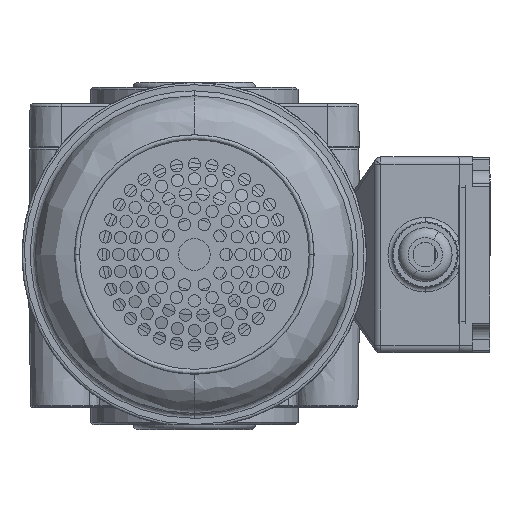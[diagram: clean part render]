
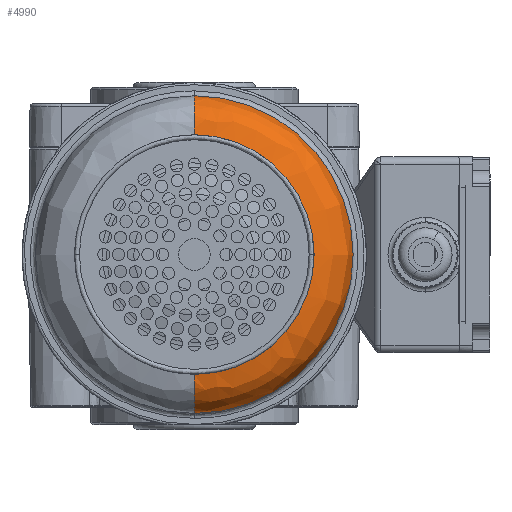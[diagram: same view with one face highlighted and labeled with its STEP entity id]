
A CAD part, top view. The second image highlights one B-rep face of the part: STEP entity #4990.
In plain terms, the highlighted free-form (B-spline) face has degree [3, 3] with [4, 4] control points.
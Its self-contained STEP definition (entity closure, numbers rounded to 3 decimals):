
#3234 = CIRCLE ( 'NONE', #11669, 49. ) ;
#3385 = CARTESIAN_POINT ( 'NONE',  ( 59.402, 280.037, 210.035 ) ) ;
#4717 = EDGE_CURVE ( 'NONE', #8215, #44333, #60486, .T. ) ;
#4990 = ADVANCED_FACE ( 'NONE', ( #25515 ), #59912, .T. ) ;
#6216 = DIRECTION ( 'NONE',  ( 0., -1., 0. ) ) ;
#7469 = CARTESIAN_POINT ( 'NONE',  ( -38.598, 264.037, 210.035 ) ) ;
#7554 = CARTESIAN_POINT ( 'NONE',  ( 78.147, 280.037, 219.407 ) ) ;
#8215 = VERTEX_POINT ( 'NONE', #22534 ) ;
#8650 = CARTESIAN_POINT ( 'NONE',  ( -38.598, 273.41, 226.035 ) ) ;
#11625 = EDGE_LOOP ( 'NONE', ( #36212, #29566, #37256, #16274, #31922, #48112 ) ) ;
#11669 = AXIS2_PLACEMENT_3D ( 'NONE', #27959, #6216, #63155 ) ;
#16241 = DIRECTION ( 'NONE',  ( 1., 0., 0. ) ) ;
#16274 = ORIENTED_EDGE ( 'NONE', *, *, #4717, .T. ) ;
#17871 = AXIS2_PLACEMENT_3D ( 'NONE', #45427, #39427, #16241 ) ;
#18180 = CARTESIAN_POINT ( 'NONE',  ( -38.598, 280.037, 161.035 ) ) ;
#19164 = CARTESIAN_POINT ( 'NONE',  ( -38.598, 280.037, 210.035 ) ) ;
#21336 = CARTESIAN_POINT ( 'NONE',  ( -38.598, 280.037, 210.035 ) ) ;
#22534 = CARTESIAN_POINT ( 'NONE',  ( -38.598, 264.037, 96.035 ) ) ;
#24524 = DIRECTION ( 'NONE',  ( 0., 0., -1. ) ) ;
#24779 = CARTESIAN_POINT ( 'NONE',  ( 91.402, 273.41, 96.035 ) ) ;
#25515 = FACE_OUTER_BOUND ( 'NONE', #11625, .T. ) ;
#27959 = CARTESIAN_POINT ( 'NONE',  ( -38.598, 280.037, 161.035 ) ) ;
#29566 = ORIENTED_EDGE ( 'NONE', *, *, #38712, .F. ) ;
#30401 = CARTESIAN_POINT ( 'NONE',  ( -38.598, 280.037, 112.035 ) ) ;
#30767 = CARTESIAN_POINT ( 'NONE',  ( -38.598, 280.037, 219.407 ) ) ;
#31040 = VERTEX_POINT ( 'NONE', #21336 ) ;
#31922 = ORIENTED_EDGE ( 'NONE', *, *, #69101, .T. ) ;
#32390 = CIRCLE ( 'NONE', #70712, 16. ) ;
#32797 = DIRECTION ( 'NONE',  ( 0., -1., 0. ) ) ;
#35997 = CARTESIAN_POINT ( 'NONE',  ( -38.598, 264.037, 96.035 ) ) ;
#36212 = ORIENTED_EDGE ( 'NONE', *, *, #47757, .F. ) ;
#36369 = CARTESIAN_POINT ( 'NONE',  ( 91.402, 264.037, 96.035 ) ) ;
#37088 = CARTESIAN_POINT ( 'NONE',  ( 91.402, 273.41, 226.035 ) ) ;
#37256 = ORIENTED_EDGE ( 'NONE', *, *, #37375, .F. ) ;
#37343 = CARTESIAN_POINT ( 'NONE',  ( -38.598, 280.037, 112.035 ) ) ;
#37375 = EDGE_CURVE ( 'NONE', #8215, #57395, #58452, .T. ) ;
#37594 = EDGE_CURVE ( 'NONE', #69217, #31040, #69209, .T. ) ;
#38591 = CARTESIAN_POINT ( 'NONE',  ( 26.402, 264.037, 161.035 ) ) ;
#38712 = EDGE_CURVE ( 'NONE', #57395, #46955, #70546, .T. ) ;
#39273 = AXIS2_PLACEMENT_3D ( 'NONE', #18180, #40609, #24524 ) ;
#39427 = DIRECTION ( 'NONE',  ( 0., -1., 0. ) ) ;
#40609 = DIRECTION ( 'NONE',  ( 0., -1., 0. ) ) ;
#44333 = VERTEX_POINT ( 'NONE', #37343 ) ;
#45427 = CARTESIAN_POINT ( 'NONE',  ( -38.598, 264.037, 161.035 ) ) ;
#46955 = VERTEX_POINT ( 'NONE', #62168 ) ;
#47757 = EDGE_CURVE ( 'NONE', #46955, #31040, #32390, .T. ) ;
#48112 = ORIENTED_EDGE ( 'NONE', *, *, #37594, .T. ) ;
#48348 = CARTESIAN_POINT ( 'NONE',  ( 91.402, 264.037, 226.035 ) ) ;
#52089 = AXIS2_PLACEMENT_3D ( 'NONE', #52299, #70667, #53772 ) ;
#52299 = CARTESIAN_POINT ( 'NONE',  ( -38.598, 264.037, 112.035 ) ) ;
#53166 = DIRECTION ( 'NONE',  ( -1., 0., 0. ) ) ;
#53772 = DIRECTION ( 'NONE',  ( 0., 0., -1. ) ) ;
#54713 = CARTESIAN_POINT ( 'NONE',  ( -38.598, 264.037, 226.035 ) ) ;
#54854 = AXIS2_PLACEMENT_3D ( 'NONE', #56379, #32797, #55282 ) ;
#55282 = DIRECTION ( 'NONE',  ( 1., 0., 0. ) ) ;
#56379 = CARTESIAN_POINT ( 'NONE',  ( -38.598, 264.037, 161.035 ) ) ;
#57395 = VERTEX_POINT ( 'NONE', #38591 ) ;
#58452 = CIRCLE ( 'NONE', #54854, 65. ) ;
#59012 = CARTESIAN_POINT ( 'NONE',  ( 10.402, 280.037, 161.035 ) ) ;
#59233 = CARTESIAN_POINT ( 'NONE',  ( 78.147, 280.037, 102.662 ) ) ;
#59597 = CARTESIAN_POINT ( 'NONE',  ( -38.598, 273.41, 96.035 ) ) ;
#59912 =( BOUNDED_SURFACE ( )  B_SPLINE_SURFACE ( 3, 3, ( 
 ( #35997, #36369, #48348, #54713 ),
 ( #59597, #24779, #37088, #8650 ),
 ( #71232, #59233, #7554, #30767 ),
 ( #30401, #71967, #3385, #19164 ) ),
 .UNSPECIFIED., .F., .F., .T. ) 
 B_SPLINE_SURFACE_WITH_KNOTS ( ( 4, 4 ),
 ( 4, 4 ),
 ( 0., 1. ),
 ( 0., 1. ),
 .UNSPECIFIED. ) 
 GEOMETRIC_REPRESENTATION_ITEM ( )  RATIONAL_B_SPLINE_SURFACE ( (
 ( 1., 0.333, 0.333, 1.),
 ( 0.805, 0.268, 0.268, 0.805),
 ( 0.805, 0.268, 0.268, 0.805),
 ( 1., 0.333, 0.333, 1.) ) ) 
 REPRESENTATION_ITEM ( '' )  SURFACE ( )  );
#60486 = CIRCLE ( 'NONE', #52089, 16. ) ;
#62168 = CARTESIAN_POINT ( 'NONE',  ( -38.598, 264.037, 226.035 ) ) ;
#63155 = DIRECTION ( 'NONE',  ( 0., 0., -1. ) ) ;
#64789 = DIRECTION ( 'NONE',  ( 0., 0., 1. ) ) ;
#69101 = EDGE_CURVE ( 'NONE', #44333, #69217, #3234, .T. ) ;
#69209 = CIRCLE ( 'NONE', #39273, 49. ) ;
#69217 = VERTEX_POINT ( 'NONE', #59012 ) ;
#70546 = CIRCLE ( 'NONE', #17871, 65. ) ;
#70667 = DIRECTION ( 'NONE',  ( 1., 0., 0. ) ) ;
#70712 = AXIS2_PLACEMENT_3D ( 'NONE', #7469, #53166, #64789 ) ;
#71232 = CARTESIAN_POINT ( 'NONE',  ( -38.598, 280.037, 102.662 ) ) ;
#71967 = CARTESIAN_POINT ( 'NONE',  ( 59.402, 280.037, 112.035 ) ) ;
